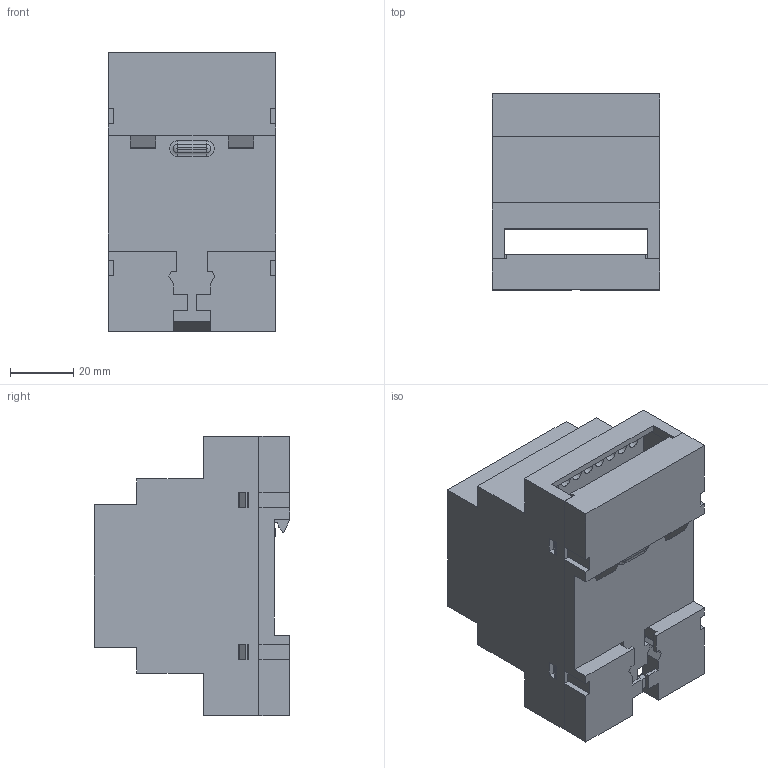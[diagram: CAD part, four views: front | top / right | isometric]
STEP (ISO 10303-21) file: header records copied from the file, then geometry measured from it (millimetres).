
FILE_DESCRIPTION(('STEP AP203'), '1');
FILE_NAME('栖闉罻_141', '', ('UNSPECIFIED'), ('UNSPECIFIED'), 'ASCON STEP Converter 1.6', 'ASCON Math Kernel', '');
FILE_SCHEMA(('CONFIG_CONTROL_DESIGN'));
Length unit declared in the file: millimetre
Assembly tree (3 placements, depth 2):
  (unnamed)
    (unnamed)
    (unnamed)
    (unnamed)
Bounding box: 53 x 61.9 x 88.35 mm (x, y, z)
Volume: 46381.8 mm3; surface area: 49297.9 mm2
Topology: 3 solids, 3 shells, 482 faces, 1376 edges, 904 vertices
Faces by surface type: plane 414, cylinder 64, torus 4
Full cylindrical faces by diameter (mm): 3.8 x18, 5 x4
Entity records: 19517 total; most frequent: CARTESIAN_POINT 2744, ORIENTED_EDGE 2708, DIRECTION 2460, EDGE_CURVE 1354, LINE 1220, VECTOR 1220, VERTEX_POINT 904, AXIS2_PLACEMENT_3D 620
